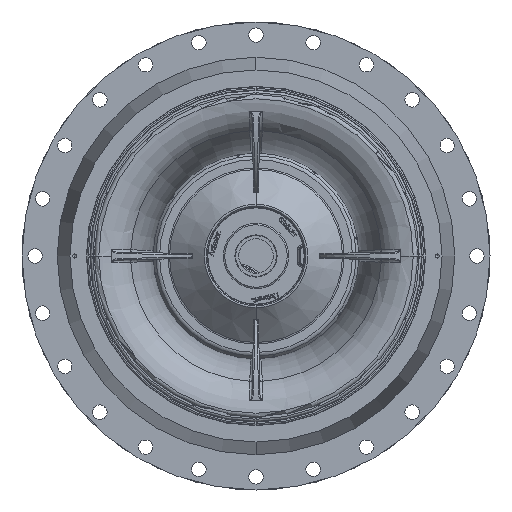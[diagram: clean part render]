
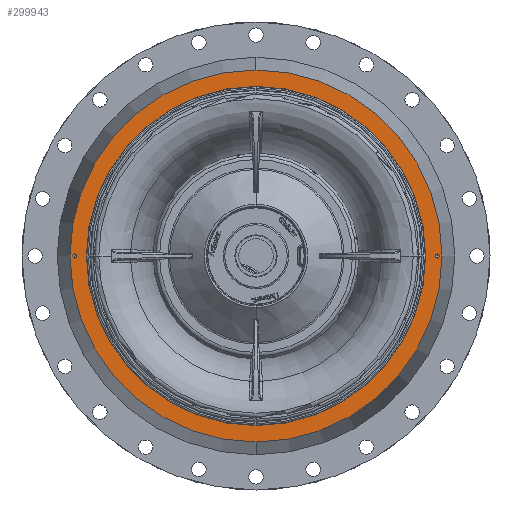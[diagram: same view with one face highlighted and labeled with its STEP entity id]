
A CAD part, front view. The second image highlights one B-rep face of the part: STEP entity #299943.
In plain terms, the highlighted planar face has unit normal (0, -1, 0).
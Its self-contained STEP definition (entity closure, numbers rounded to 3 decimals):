
#81 = DIRECTION ( 'NONE',  ( 0., 0., 1. ) ) ;
#356 = AXIS2_PLACEMENT_3D ( 'NONE', #340374, #11778, #341556 ) ;
#5551 = CARTESIAN_POINT ( 'NONE',  ( 0., -392., 387.5 ) ) ;
#7634 = DIRECTION ( 'NONE',  ( 0., 0., 1. ) ) ;
#11778 = DIRECTION ( 'NONE',  ( 0., -1., 0. ) ) ;
#11846 = CARTESIAN_POINT ( 'NONE',  ( 0., -392., -352.5 ) ) ;
#21908 = AXIS2_PLACEMENT_3D ( 'NONE', #94376, #177028, #123152 ) ;
#28789 = CARTESIAN_POINT ( 'NONE',  ( 0., -392., 0. ) ) ;
#31438 = CARTESIAN_POINT ( 'NONE',  ( 0., -392., 0. ) ) ;
#31702 = CIRCLE ( 'NONE', #21908, 4.25 ) ;
#33806 = DIRECTION ( 'NONE',  ( 0., 0., 1. ) ) ;
#33850 = CARTESIAN_POINT ( 'NONE',  ( -377.5, -392., 4.25 ) ) ;
#40150 = EDGE_CURVE ( 'NONE', #155913, #260071, #69221, .T. ) ;
#45605 = AXIS2_PLACEMENT_3D ( 'NONE', #125131, #182613, #71058 ) ;
#47811 = DIRECTION ( 'NONE',  ( 0., 0., 1. ) ) ;
#51639 = VERTEX_POINT ( 'NONE', #11846 ) ;
#59196 = CARTESIAN_POINT ( 'NONE',  ( 377.5, -392., -4.25 ) ) ;
#61772 = ORIENTED_EDGE ( 'NONE', *, *, #303511, .F. ) ;
#62705 = EDGE_CURVE ( 'NONE', #193248, #51639, #149491, .T. ) ;
#62888 = AXIS2_PLACEMENT_3D ( 'NONE', #106561, #131734, #47811 ) ;
#63594 = VERTEX_POINT ( 'NONE', #239151 ) ;
#64744 = VERTEX_POINT ( 'NONE', #115882 ) ;
#69221 = CIRCLE ( 'NONE', #73845, 4.25 ) ;
#71058 = DIRECTION ( 'NONE',  ( 0., 0., 1. ) ) ;
#73845 = AXIS2_PLACEMENT_3D ( 'NONE', #143894, #146199, #253015 ) ;
#75963 = EDGE_LOOP ( 'NONE', ( #225215, #309560 ) ) ;
#80394 = DIRECTION ( 'NONE',  ( 0., -1., 0. ) ) ;
#87801 = DIRECTION ( 'NONE',  ( 0., -1., 0. ) ) ;
#93404 = EDGE_LOOP ( 'NONE', ( #243056, #174576 ) ) ;
#94376 = CARTESIAN_POINT ( 'NONE',  ( 377.5, -392., 0. ) ) ;
#94746 = FACE_BOUND ( 'NONE', #94870, .T. ) ;
#94870 = EDGE_LOOP ( 'NONE', ( #348425, #159113 ) ) ;
#97487 = CARTESIAN_POINT ( 'NONE',  ( -377.5, -392., -4.25 ) ) ;
#101174 = CIRCLE ( 'NONE', #356, 4.25 ) ;
#106561 = CARTESIAN_POINT ( 'NONE',  ( 377.5, -392., 0. ) ) ;
#115882 = CARTESIAN_POINT ( 'NONE',  ( 377.5, -392., 4.25 ) ) ;
#123152 = DIRECTION ( 'NONE',  ( 0., 0., 1. ) ) ;
#125131 = CARTESIAN_POINT ( 'NONE',  ( -387.5, -392., 0. ) ) ;
#129176 = FACE_OUTER_BOUND ( 'NONE', #75963, .T. ) ;
#131734 = DIRECTION ( 'NONE',  ( 0., -1., 0. ) ) ;
#143894 = CARTESIAN_POINT ( 'NONE',  ( -377.5, -392., 0. ) ) ;
#144329 = DIRECTION ( 'NONE',  ( 0., -1., 0. ) ) ;
#146199 = DIRECTION ( 'NONE',  ( 0., -1., 0. ) ) ;
#146603 = DIRECTION ( 'NONE',  ( 0., -1., 0. ) ) ;
#149491 = CIRCLE ( 'NONE', #178419, 352.5 ) ;
#153166 = EDGE_LOOP ( 'NONE', ( #244281, #61772 ) ) ;
#155913 = VERTEX_POINT ( 'NONE', #97487 ) ;
#157340 = PLANE ( 'NONE',  #45605 ) ;
#159113 = ORIENTED_EDGE ( 'NONE', *, *, #40150, .F. ) ;
#170891 = VERTEX_POINT ( 'NONE', #59196 ) ;
#174576 = ORIENTED_EDGE ( 'NONE', *, *, #221885, .F. ) ;
#177028 = DIRECTION ( 'NONE',  ( 0., -1., 0. ) ) ;
#178419 = AXIS2_PLACEMENT_3D ( 'NONE', #28789, #80394, #81 ) ;
#182613 = DIRECTION ( 'NONE',  ( 0., -1., 0. ) ) ;
#193248 = VERTEX_POINT ( 'NONE', #299770 ) ;
#198342 = CARTESIAN_POINT ( 'NONE',  ( 0., -392., 0. ) ) ;
#202061 = FACE_BOUND ( 'NONE', #93404, .T. ) ;
#219800 = CIRCLE ( 'NONE', #288202, 387.5 ) ;
#221885 = EDGE_CURVE ( 'NONE', #170891, #64744, #323247, .T. ) ;
#222546 = EDGE_CURVE ( 'NONE', #279793, #63594, #219800, .T. ) ;
#225215 = ORIENTED_EDGE ( 'NONE', *, *, #222546, .T. ) ;
#230420 = EDGE_CURVE ( 'NONE', #64744, #170891, #31702, .T. ) ;
#239151 = CARTESIAN_POINT ( 'NONE',  ( 0., -392., -387.5 ) ) ;
#243056 = ORIENTED_EDGE ( 'NONE', *, *, #230420, .F. ) ;
#244281 = ORIENTED_EDGE ( 'NONE', *, *, #62705, .F. ) ;
#253015 = DIRECTION ( 'NONE',  ( 0., 0., 1. ) ) ;
#260071 = VERTEX_POINT ( 'NONE', #33850 ) ;
#262513 = AXIS2_PLACEMENT_3D ( 'NONE', #198342, #144329, #7634 ) ;
#279793 = VERTEX_POINT ( 'NONE', #5551 ) ;
#288202 = AXIS2_PLACEMENT_3D ( 'NONE', #338451, #146603, #310837 ) ;
#299770 = CARTESIAN_POINT ( 'NONE',  ( 0., -392., 352.5 ) ) ;
#299943 = ADVANCED_FACE ( 'NONE', ( #202061, #94746, #129176, #334851 ), #157340, .T. ) ;
#303511 = EDGE_CURVE ( 'NONE', #51639, #193248, #313897, .T. ) ;
#309560 = ORIENTED_EDGE ( 'NONE', *, *, #338819, .T. ) ;
#310837 = DIRECTION ( 'NONE',  ( 0., 0., 1. ) ) ;
#313897 = CIRCLE ( 'NONE', #262513, 352.5 ) ;
#317930 = EDGE_CURVE ( 'NONE', #260071, #155913, #101174, .T. ) ;
#323247 = CIRCLE ( 'NONE', #62888, 4.25 ) ;
#323619 = AXIS2_PLACEMENT_3D ( 'NONE', #31438, #87801, #33806 ) ;
#334851 = FACE_BOUND ( 'NONE', #153166, .T. ) ;
#338451 = CARTESIAN_POINT ( 'NONE',  ( 0., -392., 0. ) ) ;
#338819 = EDGE_CURVE ( 'NONE', #63594, #279793, #345028, .T. ) ;
#340374 = CARTESIAN_POINT ( 'NONE',  ( -377.5, -392., 0. ) ) ;
#341556 = DIRECTION ( 'NONE',  ( 0., 0., 1. ) ) ;
#345028 = CIRCLE ( 'NONE', #323619, 387.5 ) ;
#348425 = ORIENTED_EDGE ( 'NONE', *, *, #317930, .F. ) ;
